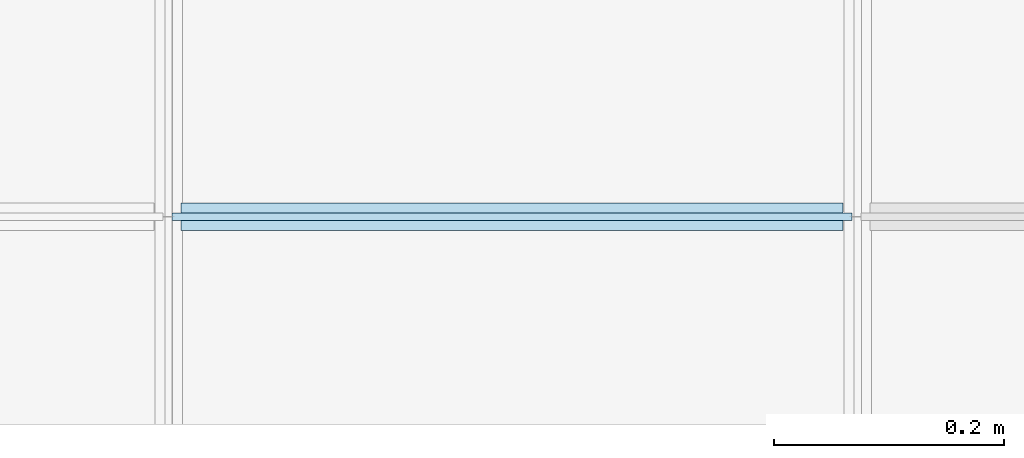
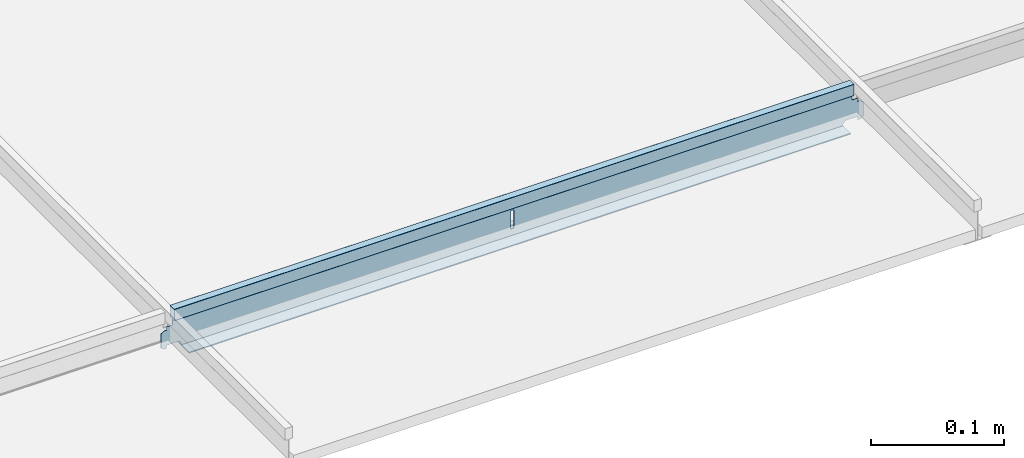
# One storey, part 5 of 79: 1 slab.
"""IFC2X3 building model written with IfcOpenShell, lengths in millimetres."""

from ifc_helpers import new_model, entity, si_unit, converted_unit, direction, frame, origin, origin_with_axes, place, context, project, spatial, faceted_brep, element, save


model = new_model("IFC2X3")

# Units and contexts
model_context = context("Model", 3, precision=1e-05, world=origin(), true_north=direction((0.0, 1.0, 0.0)))
ifc_project = project(units=[si_unit("LENGTHUNIT", "METRE", prefix="MILLI"), si_unit("AREAUNIT", "SQUARE_METRE"), si_unit("VOLUMEUNIT", "CUBIC_METRE"), converted_unit("PLANEANGLEUNIT", "DEGREE", entity("IfcPlaneAngleMeasure", 0.01745), si_unit("PLANEANGLEUNIT", "RADIAN"), dimensions=[0, 0, 0, 0, 0, 0, 0]), si_unit("SOLIDANGLEUNIT", "STERADIAN"), si_unit("MASSUNIT", "GRAM"), si_unit("TIMEUNIT", "SECOND"), si_unit("THERMODYNAMICTEMPERATUREUNIT", "DEGREE_CELSIUS"), si_unit("LUMINOUSINTENSITYUNIT", "LUMEN")], contexts=[model_context])

# Site, building, storey
site_placement = place(None, origin_with_axes())
site = spatial("IfcSite", under=ifc_project, at=site_placement, Name="Default Site", CompositionType="ELEMENT")
building_placement = place(site_placement, origin_with_axes())
building = spatial("IfcBuilding", under=site, at=building_placement, Name="Default Building", CompositionType="ELEMENT")
storey_placement = place(building_placement, origin_with_axes())
storey = spatial("IfcBuildingStorey", under=building, at=storey_placement, Name="Default Building Storey", CompositionType="ELEMENT", Elevation=0.0)

# Slab
slab_placement = place(storey_placement, frame((2548.990618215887, 1006.670922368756, 980.285217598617), z_axis=(0.0, 0.0, 1.0), x_axis=(1.0, 0.0, 0.0)))
element("IfcSlab", 1, at=slab_placement, inside=storey, Name="Profil poprzeczny RIGIPS T24", context=model_context, shape_type="Brep", body=[
    faceted_brep([(594.174773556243, 0.004894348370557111, 0.930901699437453), (17.82522644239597, 0.004894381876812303, 0.930901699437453), (594.1747735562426, 0.0, 0.8999999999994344), (17.82522644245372, 1.000000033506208, 0.9999999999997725), (17.82522644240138, 0.1000000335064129, 0.9999999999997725), (594.1747735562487, 0.1000000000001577, 0.9999999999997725), (594.1747735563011, 0.999999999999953, 0.9999999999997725), (594.1747735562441, 0.01909830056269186, 0.9587785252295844), (17.82522644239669, 0.01909833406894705, 0.9587785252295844), (594.1747735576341, 23.93090169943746, 0.995105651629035), (17.82522644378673, 23.93090173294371, 0.995105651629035), (17.82522644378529, 23.90000003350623, 0.9999999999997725), (594.1747735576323, 23.89999999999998, 0.9999999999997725), (594.1747735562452, 0.04122147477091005, 0.01909830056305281), (17.82522644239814, 0.04122150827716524, 0.01909830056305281), (17.82522644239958, 0.06909833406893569, 0.004894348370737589), (594.174773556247, 0.06909830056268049, 0.004894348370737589), (17.82522644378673, 23.93090173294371, 0.004894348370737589), (594.1747735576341, 23.93090169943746, 0.004894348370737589), (594.1747735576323, 23.89999999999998, 0.0), (17.82522644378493, 23.90000003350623, 0.0), (594.174773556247, 0.06909830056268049, 0.995105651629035), (17.82522644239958, 0.06909833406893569, 0.995105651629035), (17.82522644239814, 0.04122150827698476, 0.9809016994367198), (594.1747735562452, 0.04122147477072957, 0.9809016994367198), (17.82522644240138, 0.1000000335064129, 0.0), (594.1747735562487, 0.1000000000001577, 0.0), (17.82522644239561, 3.350625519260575e-08, 0.8999999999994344), (17.82522644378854, 23.95877855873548, 0.01909830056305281), (594.1747735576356, 23.95877852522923, 0.01909830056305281), (17.82522644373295, 23.00000003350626, 0.9999999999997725), (594.17477355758, 23.0, 0.9999999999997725), (594.1747735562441, 0.01909830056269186, 0.04122147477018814), (17.82522644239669, 0.01909833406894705, 0.04122147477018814), (17.82522644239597, 0.004894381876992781, 0.06909830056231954), (594.174773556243, 0.004894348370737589, 0.06909830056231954), (594.1747735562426, 0.0, 0.1000000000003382), (17.82522644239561, 3.350625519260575e-08, 0.1000000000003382), (17.82522644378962, 23.98090173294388, 0.04122147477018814), (594.174773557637, 23.98090169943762, 0.04122147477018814), (17.82522644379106, 24.00000003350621, 0.1000000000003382), (17.8252264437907, 24.00000003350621, 0.8999999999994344), (594.1747735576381, 23.99999999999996, 0.8999999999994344), (594.1747735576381, 23.99999999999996, 0.1000000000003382), (594.1747735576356, 23.95877852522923, 0.9809016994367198), (17.82522644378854, 23.95877855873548, 0.9809016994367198), (594.1747735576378, 23.99510565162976, 0.930901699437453), (17.8252264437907, 23.99510568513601, 0.930901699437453), (17.82522644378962, 23.98090173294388, 0.9587785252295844), (594.174773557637, 23.98090169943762, 0.9587785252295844), (594.1747735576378, 23.99510565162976, 0.06909830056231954), (17.8252264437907, 23.99510568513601, 0.06909830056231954), (17.82522644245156, 1.000000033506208, 0.80000000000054), (17.82522644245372, 1.000000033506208, 0.4999999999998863), (17.82522644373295, 23.00000003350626, 0.4999999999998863), (17.8252264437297, 23.00000003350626, 0.80000000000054), (594.1747735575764, 23.0, 0.80000000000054), (594.1747735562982, 0.999999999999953, 0.80000000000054), (594.17477355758, 23.0, 0.4999999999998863), (594.1747735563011, 0.999999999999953, 0.4999999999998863), (15.06129442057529, 11.75000003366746, 4.809574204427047), (15.06129442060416, 12.25000003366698, 4.809574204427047), (15.64118844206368, 12.25000003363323, 4.569374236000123), (15.64118844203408, 11.75000003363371, 4.569374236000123), (17.06129442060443, 12.25000003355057, 3.356489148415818), (17.38925253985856, 12.25000003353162, 2.821310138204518), (17.38925253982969, 11.7500000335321, 2.821310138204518), (17.06129442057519, 11.75000003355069, 3.356489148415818), (5.000000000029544, 12.25000003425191, 1.830574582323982), (4.999999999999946, 11.75000003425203, 1.830574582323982), (3.00000000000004, 11.75000003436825, 1.830574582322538), (3.000000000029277, 12.25000003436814, 1.830574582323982), (16.65365356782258, 11.75000003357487, 3.833775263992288), (16.65365356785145, 12.2500000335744, 3.833775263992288), (17.77597980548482, 12.25000003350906, 1.631085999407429), (17.82522644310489, 12.25000003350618, 1.005348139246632), (17.82522644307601, 11.75000003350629, 1.005348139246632), (17.77597980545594, 11.75000003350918, 1.631085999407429), (2.92374124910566e-11, 12.25000003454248, 3.830574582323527), (0.0, 11.75000003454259, 3.830574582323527), (0.0, 11.75000003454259, 16.83057458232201), (2.92374124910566e-11, 12.25000003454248, 16.83057458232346), (3.00000000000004, 11.75000003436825, 18.83057458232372), (3.000000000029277, 12.25000003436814, 18.83057458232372), (10.00000000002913, 12.25000003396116, 4.830574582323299), (10.00000000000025, 11.75000003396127, 4.830574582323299), (4.999999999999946, 11.75000003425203, 4.830574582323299), (5.000000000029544, 12.25000003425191, 4.830574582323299), (9.999999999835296, 8.917120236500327, 27.47214663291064), (601.9999999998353, 8.917120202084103, 27.47214663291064), (601.9999999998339, 8.88980527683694, 27.47869892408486), (9.999999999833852, 8.889805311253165, 27.47869892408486), (10.00000000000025, 11.75000003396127, 5.005348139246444), (10.00000000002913, 12.25000003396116, 5.005348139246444), (13.82522644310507, 12.25000003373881, 5.005348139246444), (13.82522644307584, 11.75000003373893, 5.005348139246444), (16.17636745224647, 11.75000003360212, 4.241416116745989), (16.1763674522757, 12.25000003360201, 4.241416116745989), (4.999999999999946, 11.75000003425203, 18.83057458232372), (5.000000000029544, 12.25000003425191, 18.83057458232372), (9.999999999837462, 8.95000003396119, 38.00000000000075), (10.00000000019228, 15.05000003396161, 38.00000000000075), (10.00000000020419, 15.25000003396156, 37.80000000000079), (10.00000000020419, 15.2500000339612, 27.66942541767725), (10.00000000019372, 15.08287983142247, 27.47214663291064), (10.00000000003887, 12.41712023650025, 27.02785336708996), (10.00000000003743, 12.38980531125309, 27.02130107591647), (10.00000000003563, 12.36367778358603, 27.01098652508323), (10.00000000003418, 12.33925304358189, 26.99711317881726), (9.999999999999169, 11.73247938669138, 26.91243596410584), (9.999999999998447, 11.71921062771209, 26.93719435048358), (9.999999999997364, 11.70260403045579, 26.95984956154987), (9.999999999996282, 11.68298717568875, 26.9799547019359), (9.999999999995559, 11.66074702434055, 26.99711317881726), (9.999999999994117, 11.63632228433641, 27.01098652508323), (9.999999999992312, 11.61019475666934, 27.02130107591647), (9.999999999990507, 11.58287983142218, 27.02785336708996), (9.99999999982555, 8.750000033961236, 27.66942541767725), (9.99999999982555, 8.750000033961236, 37.80000000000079), (5.000000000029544, 12.25000003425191, 21.83057458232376), (4.999999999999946, 11.75000003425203, 21.83057458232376), (10.00000000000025, 11.75000003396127, 21.83057458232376), (10.00000000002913, 12.25000003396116, 21.83057458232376), (10.00000000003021, 12.26752068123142, 26.91243596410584), (10.00000000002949, 12.25785149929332, 26.88606278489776), (10.00000000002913, 12.25197262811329, 26.85859504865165), (10.00000000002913, 12.25000003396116, 26.83057458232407), (10.00000000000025, 11.75000003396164, 26.83057458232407), (10.00000000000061, 11.74802743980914, 26.85859504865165), (9.999999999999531, 11.74214856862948, 26.88606278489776), (10.00000000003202, 12.29739603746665, 26.95984956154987), (10.00000000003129, 12.28078944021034, 26.93719435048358), (17.62945250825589, 11.75000003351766, 2.241416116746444), (17.62945250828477, 12.25000003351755, 2.241416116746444), (17.82522644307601, 11.75000003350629, 0.80000000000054), (17.82522644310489, 12.25000003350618, 0.80000000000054), (14.45096430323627, 11.75000003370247, 4.956101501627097), (14.45096430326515, 12.25000003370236, 4.956101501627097), (594.1747735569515, 12.24999999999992, 0.80000000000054), (602.0000000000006, 11.74802740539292, 26.85859504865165), (601.9999999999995, 11.74214853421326, 26.88606278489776), (601.9999999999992, 11.73247935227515, 26.91243596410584), (602.000000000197, 15.13632224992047, 27.4890134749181), (10.00000000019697, 15.1363222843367, 27.4890134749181), (10.00000000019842, 15.16074702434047, 27.50288682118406), (602.0000000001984, 15.16074698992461, 27.50288682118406), (602.0000000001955, 15.11019472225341, 27.47869892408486), (10.00000000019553, 15.11019475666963, 27.47869892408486), (602.0000000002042, 15.24999999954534, 37.80000000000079), (10.00000000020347, 15.24753770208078, 37.83128689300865), (602.0000000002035, 15.24753766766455, 37.83128689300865), (594.1747735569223, 11.7500000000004, 0.80000000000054), (601.9999999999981, 11.71921059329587, 26.93719435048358), (601.9999999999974, 11.70260399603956, 26.95984956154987), (601.9999999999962, 11.68298714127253, 26.9799547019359), (304.5000000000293, 12.25000001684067, 6.830574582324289), (304.5000000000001, 11.75000001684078, 6.830574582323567), (307.5000000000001, 11.7500000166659, 6.830574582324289), (307.5000000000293, 12.25000001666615, 6.830574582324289), (602.0000000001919, 15.04999999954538, 38.00000000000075), (602.0000000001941, 15.08128689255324, 37.99753766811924), (10.00000000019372, 15.08128692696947, 37.99753766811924), (10.00000000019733, 15.1407981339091, 37.97820130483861), (602.000000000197, 15.14079809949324, 37.97820130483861), (602.0000000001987, 15.16755705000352, 37.96180339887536), (10.00000000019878, 15.16755708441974, 37.96180339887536), (607.0000000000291, 12.24999999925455, 4.830574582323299), (602.0000000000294, 12.2499999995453, 4.830574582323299), (602.0000000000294, 12.24999999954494, 5.005348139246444), (598.1747735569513, 12.24999999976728, 5.005348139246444), (597.5490356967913, 12.24999999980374, 4.956101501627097), (596.9387055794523, 12.24999999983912, 4.809574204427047), (596.3588115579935, 12.24999999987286, 4.569374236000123), (595.8236325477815, 12.24999999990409, 4.241416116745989), (595.346346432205, 12.2499999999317, 3.833775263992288), (594.9387055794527, 12.24999999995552, 3.356489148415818), (594.6107474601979, 12.24999999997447, 2.821310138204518), (594.3705474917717, 12.24999999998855, 2.241416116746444), (594.2240201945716, 12.24999999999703, 1.631085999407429), (594.1747735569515, 12.24999999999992, 1.005348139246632), (304.5000000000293, 12.25000001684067, 23.83057458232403), (307.5000000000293, 12.25000001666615, 23.83057458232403), (602.0000000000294, 12.24999999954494, 26.83057458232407), (602.0000000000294, 12.2499999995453, 21.83057458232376), (607.0000000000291, 12.24999999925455, 21.83057458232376), (607.0000000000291, 12.24999999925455, 18.83057458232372), (609.0000000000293, 12.24999999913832, 18.83057458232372), (612.0000000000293, 12.24999999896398, 16.83057458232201), (612.0000000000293, 12.24999999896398, 3.830574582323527), (609.0000000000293, 12.24999999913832, 1.830574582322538), (607.0000000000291, 12.24999999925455, 1.830574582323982), (602.0000000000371, 12.38980527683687, 27.02130107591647), (602.0000000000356, 12.36367774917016, 27.01098652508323), (602.0000000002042, 15.24999999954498, 27.66942541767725), (602.0000000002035, 15.24802740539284, 27.6414049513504), (10.00000000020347, 15.24802743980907, 27.6414049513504), (602.0000000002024, 15.23247935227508, 27.58756403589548), (10.00000000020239, 15.2324793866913, 27.58756403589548), (10.00000000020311, 15.24214856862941, 27.61393721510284), (602.0000000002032, 15.24214853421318, 27.61393721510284), (602.0000000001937, 15.08287979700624, 27.47214663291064), (601.9999999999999, 11.74999999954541, 26.83057458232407), (601.9999999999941, 11.63632224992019, 27.01098652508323), (601.9999999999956, 11.66074698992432, 26.99711317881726), (304.5000000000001, 11.75000001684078, 23.83057458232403), (601.9999999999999, 11.74999999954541, 5.005348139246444), (601.9999999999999, 11.74999999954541, 4.830574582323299), (607.0000000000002, 11.7499999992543, 4.830574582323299), (607.0000000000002, 11.7499999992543, 1.830574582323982), (609.0000000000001, 11.74999999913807, 1.830574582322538), (612.0000000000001, 11.74999999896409, 3.830574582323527), (612.0000000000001, 11.74999999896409, 16.83057458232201), (609.0000000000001, 11.74999999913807, 18.83057458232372), (607.0000000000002, 11.7499999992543, 18.83057458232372), (607.0000000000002, 11.7499999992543, 21.83057458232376), (601.9999999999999, 11.74999999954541, 21.83057458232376), (594.1747735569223, 11.7500000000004, 1.005348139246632), (594.2240201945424, 11.74999999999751, 1.631085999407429), (307.5000000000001, 11.7500000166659, 23.83057458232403), (594.3705474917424, 11.74999999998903, 2.241416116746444), (594.6107474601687, 11.74999999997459, 2.821310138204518), (594.9387055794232, 11.749999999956, 3.356489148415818), (595.3463464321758, 11.74999999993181, 3.833775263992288), (595.8236325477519, 11.74999999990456, 4.241416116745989), (596.3588115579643, 11.74999999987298, 4.569374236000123), (596.9387055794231, 11.74999999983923, 4.809574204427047), (597.5490356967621, 11.74999999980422, 4.956101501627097), (598.1747735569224, 11.7499999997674, 5.005348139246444), (602.0000000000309, 12.28078940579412, 26.93719435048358), (602.0000000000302, 12.26752064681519, 26.91243596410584), (602.0000000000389, 12.41712020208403, 27.02785336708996), (602.0000000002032, 15.24021130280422, 37.86180339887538), (10.00000000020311, 15.24021133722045, 37.86180339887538), (10.00000000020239, 15.22820133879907, 37.89079809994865), (602.0000000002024, 15.22820130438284, 37.89079809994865), (10.00000000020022, 15.19142139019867, 37.94142135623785), (602.0000000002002, 15.19142135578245, 37.94142135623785), (602.0000000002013, 15.21180339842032, 37.91755705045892), (10.00000000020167, 15.21180343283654, 37.91755705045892), (601.9999999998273, 8.767520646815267, 27.58756403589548), (9.999999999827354, 8.767520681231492, 27.58756403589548), (9.999999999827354, 8.780789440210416, 27.56280564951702), (601.9999999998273, 8.780789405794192, 27.56280564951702), (10.00000000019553, 15.1118034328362, 37.99021130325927), (602.0000000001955, 15.11180339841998, 37.99021130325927), (601.9999999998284, 8.797396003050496, 27.54015043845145), (9.999999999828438, 8.79739603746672, 27.54015043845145), (9.999999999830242, 8.817012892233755, 27.52004529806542), (601.9999999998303, 8.81701285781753, 27.52004529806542), (601.9999999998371, 8.949999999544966, 38.00000000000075), (601.9999999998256, 8.749999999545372, 27.66942541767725), (9.99999999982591, 8.751972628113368, 27.6414049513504), (601.999999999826, 8.751972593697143, 27.6414049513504), (602.0000000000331, 12.31701285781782, 26.9799547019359), (602.0000000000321, 12.29739600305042, 26.95984956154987), (10.0000000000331, 12.31701289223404, 26.9799547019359), (10.00000000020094, 15.20260403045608, 27.54015043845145), (602.0000000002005, 15.20260399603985, 27.54015043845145), (602.0000000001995, 15.18298714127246, 27.52004529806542), (10.0000000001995, 15.18298717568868, 27.52004529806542), (602.0000000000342, 12.33925300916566, 26.99711317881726), (10.00000000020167, 15.21921062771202, 27.56280564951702), (602.0000000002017, 15.21921059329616, 27.56280564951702), (602.0000000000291, 12.25197259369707, 26.85859504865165), (602.0000000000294, 12.25785146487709, 26.88606278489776), (601.9999999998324, 8.863677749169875, 27.4890134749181), (9.999999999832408, 8.8636777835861, 27.4890134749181), (601.999999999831, 8.83925300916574, 27.50288682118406), (9.999999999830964, 8.839253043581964, 27.50288682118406), (601.999999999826, 8.757851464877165, 27.61393721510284), (9.999999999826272, 8.757851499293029, 27.61393721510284), (601.9999999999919, 11.61019472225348, 27.02130107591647), (601.9999999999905, 11.58287979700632, 27.02785336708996), (601.9999999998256, 8.749999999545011, 37.80000000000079), (601.999999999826, 8.752462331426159, 37.83128689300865), (9.99999999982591, 8.752462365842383, 37.83128689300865), (601.9999999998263, 8.759788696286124, 37.86180339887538), (9.999999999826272, 8.759788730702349, 37.86180339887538), (601.999999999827, 8.771798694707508, 37.89079809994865), (9.999999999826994, 8.771798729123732, 37.89079809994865), (601.9999999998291, 8.808578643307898, 37.94142135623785), (9.999999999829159, 8.808578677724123, 37.94142135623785), (9.999999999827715, 8.788196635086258, 37.91755705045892), (601.9999999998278, 8.788196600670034, 37.91755705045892), (601.9999999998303, 8.83244294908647, 37.96180339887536), (9.999999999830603, 8.832442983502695, 37.96180339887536), (601.9999999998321, 8.859201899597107, 37.97820130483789), (9.999999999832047, 8.859201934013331, 37.97820130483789), (601.9999999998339, 8.888196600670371, 37.99021130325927), (9.999999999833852, 8.888196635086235, 37.99021130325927), (9.999999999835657, 8.918713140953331, 37.99753766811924), (601.9999999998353, 8.918713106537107, 37.99753766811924)], [[[0, 1, 2]], [[3, 4, 5, 6]], [[7, 8, 1, 0]], [[9, 10, 11, 12]], [[13, 14, 15, 16]], [[17, 18, 19, 20]], [[21, 22, 23, 24]], [[16, 15, 25, 26]], [[25, 20, 19, 26]], [[27, 2, 1]], [[18, 17, 28, 29]], [[11, 30, 31, 12]], [[32, 33, 14, 13]], [[34, 35, 36, 37]], [[29, 28, 38, 39]], [[40, 41, 42, 43]], [[44, 45, 10, 9]], [[46, 47, 48, 49]], [[22, 21, 5, 4]], [[50, 51, 40, 43]], [[49, 48, 45, 44]], [[47, 46, 42, 41]], [[35, 34, 33, 32]], [[27, 37, 36, 2]], [[41, 40, 20, 25, 37, 27, 4, 3, 52, 53, 54, 55, 30, 11]], [[39, 38, 51, 50]], [[24, 23, 8, 7]], [[30, 55, 56, 31]], [[6, 57, 52, 3]], [[12, 31, 56, 58, 59, 57, 6, 5, 2, 36, 26, 19, 43, 42]], [[60, 61, 62, 63]], [[64, 65, 66, 67]], [[68, 69, 70, 71]], [[67, 72, 73, 64]], [[74, 75, 76, 77]], [[78, 79, 80, 81]], [[81, 80, 82, 83]], [[84, 85, 86, 87]], [[88, 89, 90, 91]], [[92, 93, 94, 95]], [[96, 63, 62, 97]], [[83, 82, 98, 99]], [[100, 101, 102, 103, 104, 105, 106, 107, 108, 109, 110, 111, 112, 113, 114, 115, 116, 88, 117, 118]], [[87, 86, 69, 68]], [[119, 120, 121, 122]], [[123, 124, 125, 126, 122, 121, 127, 128, 129, 130, 131]], [[77, 132, 133, 74]], [[53, 52, 134, 135, 55, 54]], [[97, 73, 72, 96]], [[108, 129, 109]], [[136, 95, 94, 137]], [[71, 70, 79, 78]], [[99, 98, 120, 119]], [[76, 75, 135, 134]], [[137, 61, 60, 136]], [[66, 65, 133, 132]], [[55, 54, 58, 56]], [[55, 135, 138, 56]], [[92, 85, 84, 93]], [[139, 140, 129, 128]], [[141, 109, 129, 140]], [[142, 143, 144, 145]], [[143, 142, 146, 147]], [[148, 102, 149, 150]], [[134, 52, 57, 151]], [[152, 153, 111, 110]], [[112, 111, 153, 154]], [[53, 54, 58, 59]], [[155, 156, 157, 158]], [[101, 159, 160, 161]], [[162, 163, 164, 165]], [[166, 167, 168, 169, 170, 171, 172, 173, 174, 175, 176, 177, 178, 179, 138, 135, 75, 74, 133, 65, 64, 73, 97, 62, 61, 137, 94, 93, 84, 87, 68, 71, 78, 81, 83, 99, 119, 122, 126, 180, 155, 158, 181, 182, 183, 184, 185, 186, 187, 188, 189, 190]], [[191, 192, 107, 106]], [[103, 193, 194, 195]], [[196, 197, 198, 199]], [[200, 104, 147, 146]], [[128, 127, 201, 139]], [[202, 114, 113, 203]], [[154, 203, 113, 112]], [[180, 204, 156, 155]], [[205, 206, 207, 208, 209, 210, 211, 212, 213, 214, 215, 201, 127, 121, 120, 98, 82, 80, 79, 70, 69, 86, 85, 92, 95, 136, 60, 63, 96, 72, 67, 66, 132, 77, 76, 134, 151, 216, 217, 157, 156, 204, 218, 219, 220, 221, 222, 223, 224, 225, 226, 227]], [[181, 180, 126, 182]], [[228, 229, 123, 131]], [[105, 104, 200, 230]], [[231, 232, 233, 234]], [[235, 236, 237, 238]], [[236, 235, 165, 164]], [[239, 240, 241, 242]], [[181, 218, 204, 180]], [[163, 162, 243, 244]], [[245, 246, 247, 248]], [[246, 245, 242, 241]], [[158, 157, 218, 181]], [[101, 100, 249, 159]], [[103, 102, 148, 193]], [[250, 117, 251, 252]], [[110, 109, 141, 152]], [[253, 254, 130, 255]], [[199, 198, 195, 194]], [[256, 257, 258, 259]], [[131, 130, 254, 228]], [[260, 108, 107, 192]], [[257, 256, 261, 262]], [[53, 52, 57, 59]], [[255, 108, 260, 253]], [[263, 182, 126, 125]], [[145, 144, 259, 258]], [[232, 231, 150, 149]], [[106, 105, 230, 191]], [[244, 243, 161, 160]], [[197, 196, 262, 261]], [[218, 157, 217, 219]], [[264, 124, 123, 229]], [[125, 124, 264, 263]], [[234, 233, 238, 237]], [[265, 266, 91, 90]], [[267, 268, 266, 265]], [[268, 267, 248, 247]], [[269, 270, 240, 239]], [[270, 269, 252, 251]], [[271, 272, 116, 115]], [[115, 114, 202, 271]], [[88, 116, 272, 89]], [[172, 224, 223, 173]], [[210, 188, 187, 211]], [[212, 186, 185, 213]], [[169, 227, 226, 170]], [[219, 177, 176, 220]], [[174, 222, 221, 175]], [[118, 273, 274, 275]], [[276, 277, 275, 274]], [[278, 279, 277, 276]], [[280, 281, 282, 283]], [[214, 184, 183, 215]], [[281, 280, 284, 285]], [[286, 287, 285, 284]], [[206, 205, 168, 167]], [[288, 289, 287, 286]], [[211, 187, 186, 212]], [[249, 100, 290, 291]], [[225, 171, 170, 226]], [[118, 117, 250, 273]], [[168, 205, 227, 169]], [[208, 190, 189, 209]], [[222, 174, 173, 223]], [[216, 179, 178, 217]], [[279, 278, 283, 282]], [[206, 167, 166, 207]], [[139, 201, 215, 183, 182, 263, 264, 229, 228, 254, 140]], [[151, 57, 59, 58, 56, 138, 179, 216]], [[209, 189, 188, 210]], [[213, 185, 184, 214]], [[141, 140, 260]], [[224, 172, 171, 225]], [[289, 288, 291, 290]], [[250, 89, 272, 271, 202, 203, 154, 153, 152, 141, 260, 192, 191, 230, 200, 193, 148, 159, 249, 273]], [[177, 219, 217, 178]], [[220, 176, 175, 221]], [[207, 166, 190, 208]]]),
])

save(model, "model.ifc")
